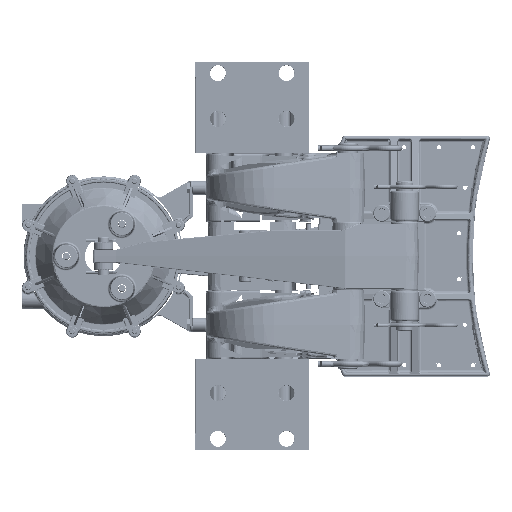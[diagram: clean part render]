
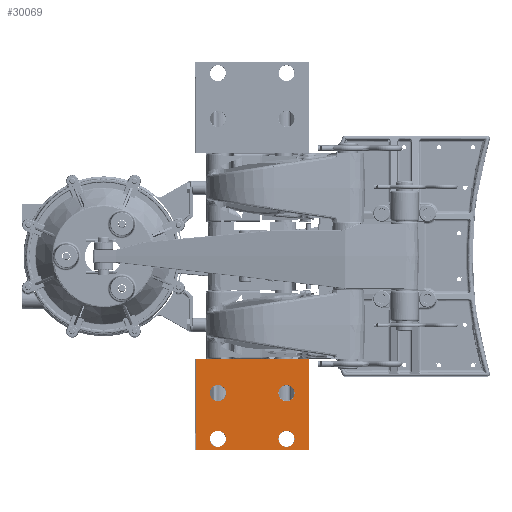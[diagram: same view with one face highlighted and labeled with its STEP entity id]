
A CAD part, top view. The second image highlights one B-rep face of the part: STEP entity #30069.
In plain terms, the highlighted planar face has unit normal (0, 0, 1).
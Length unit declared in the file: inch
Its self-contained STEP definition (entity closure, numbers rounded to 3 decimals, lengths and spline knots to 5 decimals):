
#2475 = EDGE_CURVE ( 'NONE', #53714, #21094, #89442, .T. ) ;
#6508 = DIRECTION ( 'NONE',  ( 0., 0., -1. ) ) ;
#10047 = ORIENTED_EDGE ( 'NONE', *, *, #133493, .T. ) ;
#10168 = FACE_BOUND ( 'NONE', #214713, .T. ) ;
#11548 = VECTOR ( 'NONE', #256437, 39.37008 ) ;
#12867 = ORIENTED_EDGE ( 'NONE', *, *, #264025, .T. ) ;
#14481 = EDGE_LOOP ( 'NONE', ( #118010, #216905 ) ) ;
#16892 = DIRECTION ( 'NONE',  ( 0., 0., -1. ) ) ;
#18083 = EDGE_LOOP ( 'NONE', ( #109983, #158646 ) ) ;
#18495 = DIRECTION ( 'NONE',  ( 1., 0., 0. ) ) ;
#19859 = CARTESIAN_POINT ( 'NONE',  ( -0.96499, -8., 7.5 ) ) ;
#21094 = VERTEX_POINT ( 'NONE', #145125 ) ;
#23155 = CARTESIAN_POINT ( 'NONE',  ( -4.31874, -8., 7.5 ) ) ;
#23860 = DIRECTION ( 'NONE',  ( 0., -1., 0. ) ) ;
#24968 = FACE_BOUND ( 'NONE', #14481, .T. ) ;
#25316 = EDGE_CURVE ( 'NONE', #274366, #97262, #28622, .T. ) ;
#28622 = CIRCLE ( 'NONE', #227116, 0.35375 ) ;
#30069 = ADVANCED_FACE ( 'NONE', ( #49446, #24968, #162130, #10168, #135937 ), #163763, .F. ) ;
#31826 = CARTESIAN_POINT ( 'NONE',  ( -4.67249, -6., 7.5 ) ) ;
#39001 = CARTESIAN_POINT ( 'NONE',  ( -1.31874, -8., 7.5 ) ) ;
#39232 = EDGE_LOOP ( 'NONE', ( #106364, #234667 ) ) ;
#42146 = VERTEX_POINT ( 'NONE', #279418 ) ;
#43584 = AXIS2_PLACEMENT_3D ( 'NONE', #286105, #215943, #134331 ) ;
#45940 = EDGE_CURVE ( 'NONE', #164181, #269872, #88316, .T. ) ;
#49086 = LINE ( 'NONE', #222309, #202151 ) ;
#49446 = FACE_BOUND ( 'NONE', #18083, .T. ) ;
#50686 = CARTESIAN_POINT ( 'NONE',  ( -5.29874, -8.48, 7.5 ) ) ;
#52660 = CARTESIAN_POINT ( 'NONE',  ( -1.67249, -8., 7.5 ) ) ;
#53714 = VERTEX_POINT ( 'NONE', #173450 ) ;
#55850 = CIRCLE ( 'NONE', #238549, 0.35375 ) ;
#55858 = VECTOR ( 'NONE', #152625, 39.37008 ) ;
#63301 = CARTESIAN_POINT ( 'NONE',  ( -3.96499, -8., 7.5 ) ) ;
#76198 = CARTESIAN_POINT ( 'NONE',  ( -1.31874, -8., 7.5 ) ) ;
#83182 = CIRCLE ( 'NONE', #265859, 0.35375 ) ;
#83518 = DIRECTION ( 'NONE',  ( 0., 0., -1. ) ) ;
#88316 = CIRCLE ( 'NONE', #244874, 0.35375 ) ;
#88383 = EDGE_CURVE ( 'NONE', #296737, #91364, #128848, .T. ) ;
#88439 = DIRECTION ( 'NONE',  ( 1., 0., 0. ) ) ;
#89442 = LINE ( 'NONE', #189402, #55858 ) ;
#91364 = VERTEX_POINT ( 'NONE', #31826 ) ;
#93857 = EDGE_LOOP ( 'NONE', ( #12867, #171928, #207367, #281500 ) ) ;
#97262 = VERTEX_POINT ( 'NONE', #312739 ) ;
#98203 = DIRECTION ( 'NONE',  ( 1., 0., 0. ) ) ;
#100703 = VERTEX_POINT ( 'NONE', #242336 ) ;
#106067 = EDGE_CURVE ( 'NONE', #42146, #53714, #254849, .T. ) ;
#106120 = DIRECTION ( 'NONE',  ( 1., 0., 0. ) ) ;
#106364 = ORIENTED_EDGE ( 'NONE', *, *, #88383, .T. ) ;
#109983 = ORIENTED_EDGE ( 'NONE', *, *, #279667, .T. ) ;
#118010 = ORIENTED_EDGE ( 'NONE', *, *, #25316, .T. ) ;
#119575 = DIRECTION ( 'NONE',  ( 0., 0., -1. ) ) ;
#121848 = EDGE_CURVE ( 'NONE', #97262, #274366, #214678, .T. ) ;
#128553 = DIRECTION ( 'NONE',  ( 0., 0., -1. ) ) ;
#128848 = CIRCLE ( 'NONE', #269339, 0.35375 ) ;
#129610 = EDGE_CURVE ( 'NONE', #91364, #296737, #163848, .T. ) ;
#133493 = EDGE_CURVE ( 'NONE', #254414, #100703, #55850, .T. ) ;
#134331 = DIRECTION ( 'NONE',  ( 1., 0., 0. ) ) ;
#135937 = FACE_OUTER_BOUND ( 'NONE', #93857, .T. ) ;
#141045 = CARTESIAN_POINT ( 'NONE',  ( -1.31874, -6., 7.5 ) ) ;
#145125 = CARTESIAN_POINT ( 'NONE',  ( -5.29874, -4.5, 7.5 ) ) ;
#152625 = DIRECTION ( 'NONE',  ( -1., 0., 0. ) ) ;
#158459 = DIRECTION ( 'NONE',  ( 0., 0., -1. ) ) ;
#158646 = ORIENTED_EDGE ( 'NONE', *, *, #45940, .T. ) ;
#162130 = FACE_BOUND ( 'NONE', #39232, .T. ) ;
#163763 = PLANE ( 'NONE',  #173485 ) ;
#163848 = CIRCLE ( 'NONE', #43584, 0.35375 ) ;
#164181 = VERTEX_POINT ( 'NONE', #52660 ) ;
#164984 = DIRECTION ( 'NONE',  ( 1., 0., 0. ) ) ;
#168185 = CARTESIAN_POINT ( 'NONE',  ( -4.31874, -6., 7.5 ) ) ;
#171928 = ORIENTED_EDGE ( 'NONE', *, *, #106067, .T. ) ;
#173014 = AXIS2_PLACEMENT_3D ( 'NONE', #183943, #206717, #283301 ) ;
#173450 = CARTESIAN_POINT ( 'NONE',  ( -0.33874, -4.5, 7.5 ) ) ;
#173485 = AXIS2_PLACEMENT_3D ( 'NONE', #308952, #83518, #88439 ) ;
#176059 = DIRECTION ( 'NONE',  ( 1., 0., 0. ) ) ;
#178234 = CARTESIAN_POINT ( 'NONE',  ( -4.31874, -8., 7.5 ) ) ;
#183943 = CARTESIAN_POINT ( 'NONE',  ( -1.31874, -6., 7.5 ) ) ;
#189402 = CARTESIAN_POINT ( 'NONE',  ( -0.31874, -4.5, 7.5 ) ) ;
#191158 = DIRECTION ( 'NONE',  ( 0., 0., -1. ) ) ;
#202151 = VECTOR ( 'NONE', #321766, 39.37008 ) ;
#206717 = DIRECTION ( 'NONE',  ( 0., 0., -1. ) ) ;
#207367 = ORIENTED_EDGE ( 'NONE', *, *, #2475, .T. ) ;
#214678 = CIRCLE ( 'NONE', #173014, 0.35375 ) ;
#214713 = EDGE_LOOP ( 'NONE', ( #10047, #305944 ) ) ;
#215943 = DIRECTION ( 'NONE',  ( 0., 0., -1. ) ) ;
#216905 = ORIENTED_EDGE ( 'NONE', *, *, #121848, .T. ) ;
#220116 = EDGE_CURVE ( 'NONE', #21094, #322031, #296638, .T. ) ;
#222309 = CARTESIAN_POINT ( 'NONE',  ( -0.31874, -8.48, 7.5 ) ) ;
#227116 = AXIS2_PLACEMENT_3D ( 'NONE', #141045, #16892, #18495 ) ;
#232618 = CIRCLE ( 'NONE', #279641, 0.35375 ) ;
#234026 = VECTOR ( 'NONE', #23860, 39.37008 ) ;
#234667 = ORIENTED_EDGE ( 'NONE', *, *, #129610, .T. ) ;
#238549 = AXIS2_PLACEMENT_3D ( 'NONE', #23155, #119575, #98203 ) ;
#242336 = CARTESIAN_POINT ( 'NONE',  ( -4.67249, -8., 7.5 ) ) ;
#244874 = AXIS2_PLACEMENT_3D ( 'NONE', #39001, #6508, #106120 ) ;
#254414 = VERTEX_POINT ( 'NONE', #63301 ) ;
#254849 = LINE ( 'NONE', #280939, #11548 ) ;
#256437 = DIRECTION ( 'NONE',  ( 0., 1., 0. ) ) ;
#256806 = CARTESIAN_POINT ( 'NONE',  ( -0.96499, -6., 7.5 ) ) ;
#257962 = DIRECTION ( 'NONE',  ( 1., 0., 0. ) ) ;
#262264 = EDGE_CURVE ( 'NONE', #100703, #254414, #232618, .T. ) ;
#264025 = EDGE_CURVE ( 'NONE', #322031, #42146, #49086, .T. ) ;
#265859 = AXIS2_PLACEMENT_3D ( 'NONE', #76198, #128553, #176059 ) ;
#269339 = AXIS2_PLACEMENT_3D ( 'NONE', #168185, #191158, #164984 ) ;
#269872 = VERTEX_POINT ( 'NONE', #19859 ) ;
#274366 = VERTEX_POINT ( 'NONE', #256806 ) ;
#279418 = CARTESIAN_POINT ( 'NONE',  ( -0.33874, -8.48, 7.5 ) ) ;
#279641 = AXIS2_PLACEMENT_3D ( 'NONE', #178234, #158459, #257962 ) ;
#279667 = EDGE_CURVE ( 'NONE', #269872, #164181, #83182, .T. ) ;
#280939 = CARTESIAN_POINT ( 'NONE',  ( -0.33874, -8.5, 7.5 ) ) ;
#281500 = ORIENTED_EDGE ( 'NONE', *, *, #220116, .T. ) ;
#283301 = DIRECTION ( 'NONE',  ( 1., 0., 0. ) ) ;
#286105 = CARTESIAN_POINT ( 'NONE',  ( -4.31874, -6., 7.5 ) ) ;
#286897 = CARTESIAN_POINT ( 'NONE',  ( -3.96499, -6., 7.5 ) ) ;
#296638 = LINE ( 'NONE', #321038, #234026 ) ;
#296737 = VERTEX_POINT ( 'NONE', #286897 ) ;
#305944 = ORIENTED_EDGE ( 'NONE', *, *, #262264, .T. ) ;
#308952 = CARTESIAN_POINT ( 'NONE',  ( -0.31874, -8.5, 7.5 ) ) ;
#312739 = CARTESIAN_POINT ( 'NONE',  ( -1.67249, -6., 7.5 ) ) ;
#321038 = CARTESIAN_POINT ( 'NONE',  ( -5.29874, -8.5, 7.5 ) ) ;
#321766 = DIRECTION ( 'NONE',  ( 1., 0., 0. ) ) ;
#322031 = VERTEX_POINT ( 'NONE', #50686 ) ;
